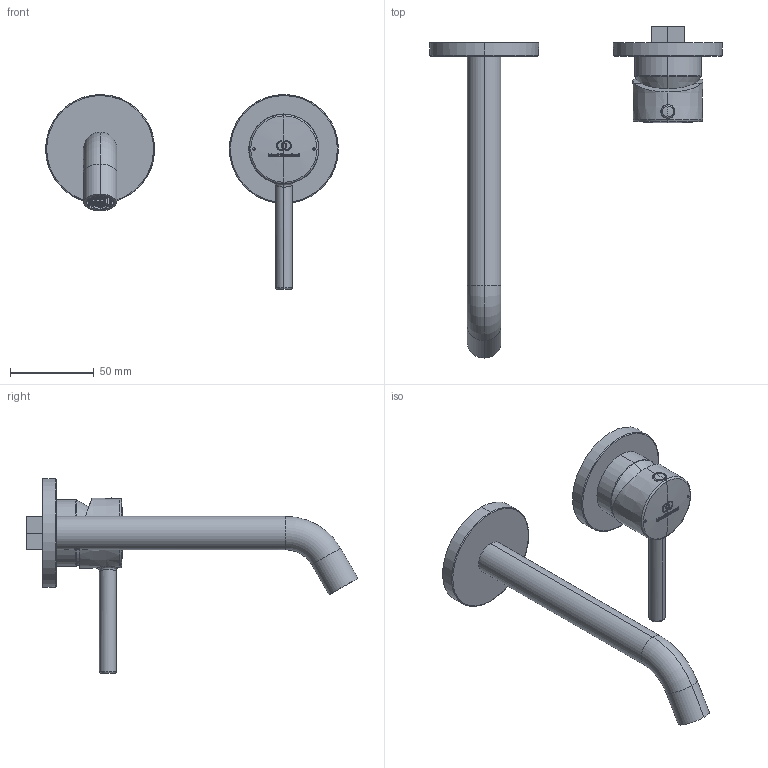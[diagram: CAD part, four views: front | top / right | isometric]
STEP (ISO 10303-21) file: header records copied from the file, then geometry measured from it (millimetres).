
FILE_DESCRIPTION((''),'2;1');
FILE_NAME('A6938AA_BG_3DPL','2021-11-30T15:26:38',('HristovG'),('AMERICAN STANDARD B&K'),'CREO PARAMETRIC BY PTC INC, 2020281','CREO PARAMETRIC BY PTC INC, 2020281','');
FILE_SCHEMA(('AP242_MANAGED_MODEL_BASED_3D_ENGINEERING_MIM_LF { 1 0 10303 442 1 1 4 }'));
Length unit declared in the file: millimetre
Products named in the file (1): A6938AA_BG_3DPL
Bounding box: 175.28 x 198.66 x 116.71 mm (x, y, z)
Volume: 168027.7 mm3; surface area: 38378.6 mm2
Topology: 2 solids, 5 shells, 872 faces, 2236 edges, 1481 vertices
Faces by surface type: plane 651, cylinder 91, extrusion 73, sphere 31, torus 14, cone 10, bspline 2
Entity records: 34728 total; most frequent: CARTESIAN_POINT 7757, ORIENTED_EDGE 4434, DIRECTION 3907, EDGE_CURVE 2223, VECTOR 1713, LINE 1640, VERTEX_POINT 1475, AXIS2_PLACEMENT_3D 1097
